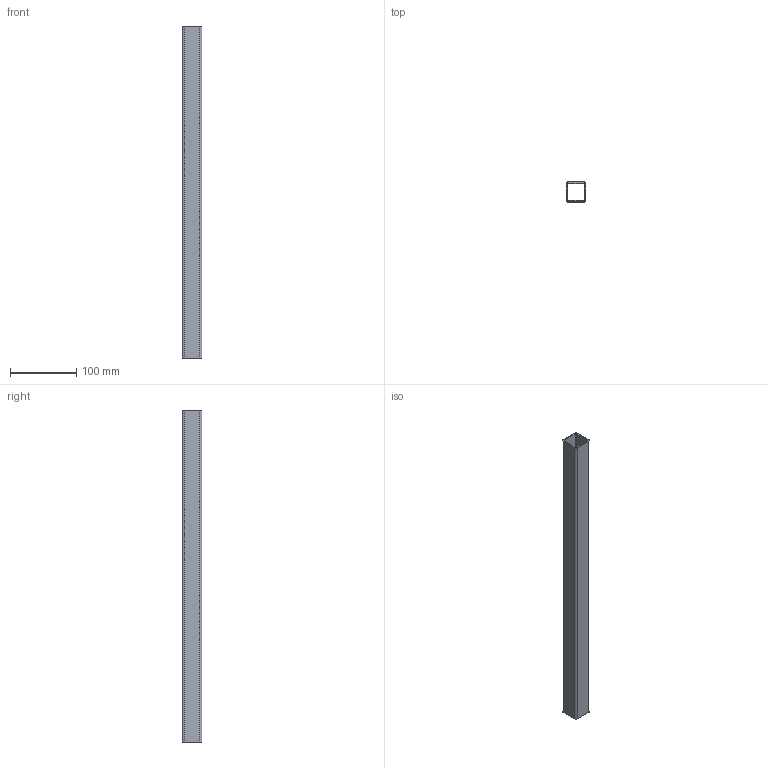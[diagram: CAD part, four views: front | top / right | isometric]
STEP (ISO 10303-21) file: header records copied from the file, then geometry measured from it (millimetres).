
FILE_DESCRIPTION (( 'STEP AP214' ), '1' );
FILE_NAME ('A40710.step', '2024-12-03T16:11:47', ( '' ), ( '' ), 'SwSTEP 2.0', 'SolidWorks 2023', '' );
FILE_SCHEMA (( 'AUTOMOTIVE_DESIGN' ));
Length unit declared in the file: millimetre
Products named in the file (1): A40710
Bounding box: 30 x 30 x 500 mm (x, y, z)
Volume: 109854 mm3; surface area: 108147.4 mm2
Topology: 1 solids, 1 shells, 18 faces, 48 edges, 32 vertices
Faces by surface type: plane 10, cylinder 8
Entity records: 595 total; most frequent: DIRECTION 102, CARTESIAN_POINT 99, ORIENTED_EDGE 96, EDGE_CURVE 48, AXIS2_PLACEMENT_3D 35, VERTEX_POINT 32, LINE 32, VECTOR 32
